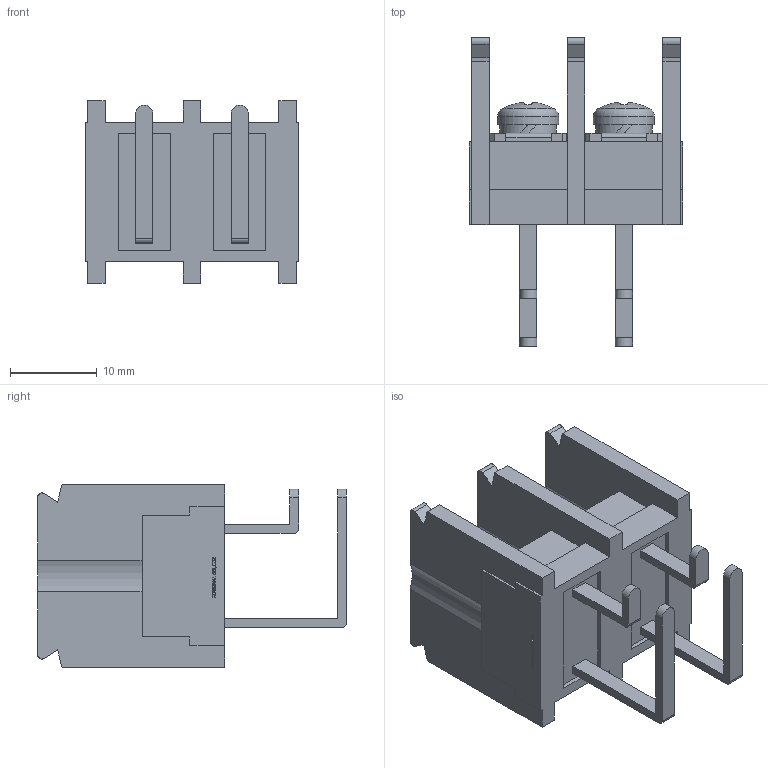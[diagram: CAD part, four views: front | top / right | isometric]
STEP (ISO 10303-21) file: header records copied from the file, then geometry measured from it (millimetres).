
FILE_DESCRIPTION(/* description */ ('Alibre Inc.'),/* implementation_level */ '2;1');
FILE_NAME(/* name */ 'export0',/* time_stamp */ '2015-12-02T12:48:47+09:00',/* author */ (''),/* organization */ (''),/* preprocessor_version */ 'ST-DEVELOPER v14',/* originating_system */ 'Alibre',/* authorisation */ '');
FILE_SCHEMA (('CONFIG_CONTROL_DESIGN'));
Length unit declared in the file: centimetre
Products named in the file (1): ID_1
Bounding box: 24.6 x 35.5 x 21 mm (x, y, z)
Volume: 4949 mm3; surface area: 5613.5 mm2
Topology: 1 solids, 17 shells, 624 faces, 1664 edges, 1108 vertices
Faces by surface type: plane 474, bspline 104, cylinder 32, cone 10, sphere 2, torus 2
Full cylindrical faces by diameter (mm): 4 x2, 6.5 x2, 7 x2
Entity records: 18679 total; most frequent: CARTESIAN_POINT 4330, ORIENTED_EDGE 3312, DIRECTION 2061, EDGE_CURVE 1656, VECTOR 1291, LINE 1291, VERTEX_POINT 1108, EDGE_LOOP 678
